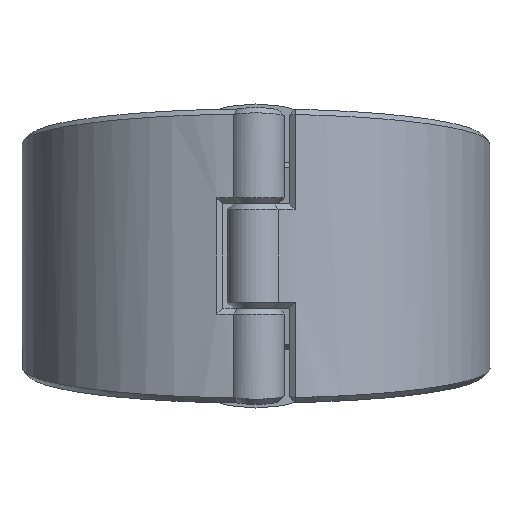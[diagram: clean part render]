
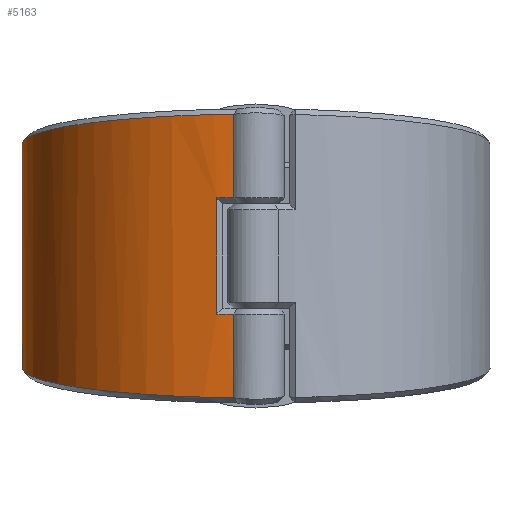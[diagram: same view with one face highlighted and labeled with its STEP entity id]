
A CAD part, front view. The second image highlights one B-rep face of the part: STEP entity #5163.
In plain terms, the highlighted cylindrical face has radius 78.5 mm (diameter 157 mm), a partial arc.
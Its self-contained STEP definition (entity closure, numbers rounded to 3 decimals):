
#171=CYLINDRICAL_SURFACE('',#5540,78.5);
#388=FACE_OUTER_BOUND('',#730,.T.);
#730=EDGE_LOOP('',(#3521,#3522,#3523,#3524,#3525,#3526,#3527,#3528,#3529,
#3530,#3531,#3532));
#1089=B_SPLINE_CURVE_WITH_KNOTS('',3,(#7728,#7729,#7730,#7731),
 .UNSPECIFIED.,.F.,.F.,(4,4),(-0.002,0.),.UNSPECIFIED.);
#1090=B_SPLINE_CURVE_WITH_KNOTS('',3,(#7733,#7734,#7735,#7736),
 .UNSPECIFIED.,.F.,.F.,(4,4),(-3.047,-3.047),
 .UNSPECIFIED.);
#1091=B_SPLINE_CURVE_WITH_KNOTS('',3,(#7738,#7739,#7740,#7741,#7742,#7743,
#7744,#7745,#7746,#7747),.UNSPECIFIED.,.F.,.F.,(4,1,1,1,1,1,1,4),(0.317,
0.631,1.035,1.44,1.845,2.249,
2.654,3.047),.UNSPECIFIED.);
#1092=B_SPLINE_CURVE_WITH_KNOTS('',3,(#7751,#7752,#7753,#7754,#7755,#7756,
#7757,#7758,#7759,#7760),.UNSPECIFIED.,.F.,.F.,(4,1,1,1,1,1,1,4),(-3.047,
-2.654,-2.249,-1.845,-1.44,
-1.035,-0.631,-0.317),.UNSPECIFIED.);
#1093=B_SPLINE_CURVE_WITH_KNOTS('',3,(#7762,#7763,#7764,#7765),
 .UNSPECIFIED.,.F.,.F.,(4,4),(3.047,3.047),
 .UNSPECIFIED.);
#1094=B_SPLINE_CURVE_WITH_KNOTS('',3,(#7767,#7768,#7769,#7770),
 .UNSPECIFIED.,.F.,.F.,(4,4),(-0.379,-0.377),
 .UNSPECIFIED.);
#1317=LINE('',#7662,#1555);
#1323=LINE('',#7726,#1561);
#1324=LINE('',#7749,#1562);
#1325=LINE('',#7771,#1563);
#1555=VECTOR('',#6155,10.);
#1561=VECTOR('',#6201,10.);
#1562=VECTOR('',#6202,10.);
#1563=VECTOR('',#6203,10.);
#1798=CIRCLE('',#5530,78.5);
#1801=CIRCLE('',#5535,78.5);
#2137=VERTEX_POINT('',#7656);
#2138=VERTEX_POINT('',#7661);
#2144=VERTEX_POINT('',#7682);
#2147=VERTEX_POINT('',#7703);
#2151=VERTEX_POINT('',#7725);
#2152=VERTEX_POINT('',#7727);
#2153=VERTEX_POINT('',#7732);
#2154=VERTEX_POINT('',#7737);
#2155=VERTEX_POINT('',#7748);
#2156=VERTEX_POINT('',#7750);
#2157=VERTEX_POINT('',#7761);
#2158=VERTEX_POINT('',#7766);
#2646=EDGE_CURVE('',#2137,#2138,#1317,.T.);
#2659=EDGE_CURVE('',#2144,#2137,#1798,.T.);
#2664=EDGE_CURVE('',#2138,#2147,#1801,.T.);
#2670=EDGE_CURVE('',#2151,#2144,#1323,.T.);
#2671=EDGE_CURVE('',#2152,#2151,#1089,.T.);
#2672=EDGE_CURVE('',#2152,#2153,#1090,.T.);
#2673=EDGE_CURVE('',#2154,#2153,#1091,.T.);
#2674=EDGE_CURVE('',#2155,#2154,#1324,.T.);
#2675=EDGE_CURVE('',#2156,#2155,#1092,.T.);
#2676=EDGE_CURVE('',#2156,#2157,#1093,.T.);
#2677=EDGE_CURVE('',#2158,#2157,#1094,.T.);
#2678=EDGE_CURVE('',#2147,#2158,#1325,.T.);
#3521=ORIENTED_EDGE('',*,*,#2664,.F.);
#3522=ORIENTED_EDGE('',*,*,#2646,.F.);
#3523=ORIENTED_EDGE('',*,*,#2659,.F.);
#3524=ORIENTED_EDGE('',*,*,#2670,.F.);
#3525=ORIENTED_EDGE('',*,*,#2671,.F.);
#3526=ORIENTED_EDGE('',*,*,#2672,.T.);
#3527=ORIENTED_EDGE('',*,*,#2673,.F.);
#3528=ORIENTED_EDGE('',*,*,#2674,.F.);
#3529=ORIENTED_EDGE('',*,*,#2675,.F.);
#3530=ORIENTED_EDGE('',*,*,#2676,.T.);
#3531=ORIENTED_EDGE('',*,*,#2677,.F.);
#3532=ORIENTED_EDGE('',*,*,#2678,.F.);
#5163=ADVANCED_FACE('',(#388),#171,.T.);
#5530=AXIS2_PLACEMENT_3D('',#7698,#6177,#6178);
#5535=AXIS2_PLACEMENT_3D('',#7712,#6187,#6188);
#5540=AXIS2_PLACEMENT_3D('',#7724,#6199,#6200);
#6155=DIRECTION('',(0.,0.,-1.));
#6177=DIRECTION('center_axis',(0.,0.,-1.));
#6178=DIRECTION('ref_axis',(0.312,-0.95,0.));
#6187=DIRECTION('center_axis',(0.,0.,1.));
#6188=DIRECTION('ref_axis',(0.312,-0.95,0.));
#6199=DIRECTION('center_axis',(0.,0.,1.));
#6200=DIRECTION('ref_axis',(-0.312,0.95,0.));
#6201=DIRECTION('',(0.,0.,-1.));
#6202=DIRECTION('',(0.,0.,1.));
#6203=DIRECTION('',(0.,0.,-1.));
#7656=CARTESIAN_POINT('',(-13.176,-77.386,19.5));
#7661=CARTESIAN_POINT('',(-13.176,-77.386,-19.5));
#7662=CARTESIAN_POINT('',(-13.176,-77.386,0.));
#7682=CARTESIAN_POINT('',(-7.389,-78.151,19.5));
#7698=CARTESIAN_POINT('Origin',(0.,0.,19.5));
#7703=CARTESIAN_POINT('',(-7.389,-78.151,-19.5));
#7712=CARTESIAN_POINT('Origin',(0.,0.,-19.5));
#7724=CARTESIAN_POINT('Origin',(0.,0.,0.));
#7725=CARTESIAN_POINT('',(-7.389,-78.151,47.543));
#7726=CARTESIAN_POINT('',(-7.389,-78.151,0.));
#7727=CARTESIAN_POINT('',(-7.376,-78.153,47.553));
#7728=CARTESIAN_POINT('Ctrl Pts',(-7.375,-78.152,47.553));
#7729=CARTESIAN_POINT('Ctrl Pts',(-7.38,-78.152,47.55));
#7730=CARTESIAN_POINT('Ctrl Pts',(-7.384,-78.151,47.547));
#7731=CARTESIAN_POINT('Ctrl Pts',(-7.389,-78.151,47.543));
#7732=CARTESIAN_POINT('',(-7.389,-78.151,47.553));
#7733=CARTESIAN_POINT('Ctrl Pts',(-7.376,-78.153,47.553));
#7734=CARTESIAN_POINT('Ctrl Pts',(-7.38,-78.152,47.553));
#7735=CARTESIAN_POINT('Ctrl Pts',(-7.385,-78.152,47.553));
#7736=CARTESIAN_POINT('Ctrl Pts',(-7.389,-78.151,47.553));
#7737=CARTESIAN_POINT('',(-24.512,74.575,27.998));
#7738=CARTESIAN_POINT('Ctrl Pts',(-24.511,74.572,27.999));
#7739=CARTESIAN_POINT('Ctrl Pts',(-32.338,71.995,28.328));
#7740=CARTESIAN_POINT('Ctrl Pts',(-49.327,63.276,29.441));
#7741=CARTESIAN_POINT('Ctrl Pts',(-69.509,40.976,32.289));
#7742=CARTESIAN_POINT('Ctrl Pts',(-80.019,10.258,36.217));
#7743=CARTESIAN_POINT('Ctrl Pts',(-77.597,-22.073,40.358));
#7744=CARTESIAN_POINT('Ctrl Pts',(-62.659,-50.803,44.042));
#7745=CARTESIAN_POINT('Ctrl Pts',(-37.907,-71.126,46.651));
#7746=CARTESIAN_POINT('Ctrl Pts',(-17.589,-77.186,47.429));
#7747=CARTESIAN_POINT('Ctrl Pts',(-7.389,-78.151,47.553));
#7748=CARTESIAN_POINT('',(-24.512,74.575,-27.998));
#7749=CARTESIAN_POINT('',(-24.512,74.575,0.));
#7750=CARTESIAN_POINT('',(-7.389,-78.151,-47.553));
#7751=CARTESIAN_POINT('Ctrl Pts',(-7.389,-78.151,-47.553));
#7752=CARTESIAN_POINT('Ctrl Pts',(-17.589,-77.186,-47.429));
#7753=CARTESIAN_POINT('Ctrl Pts',(-37.907,-71.126,-46.651));
#7754=CARTESIAN_POINT('Ctrl Pts',(-62.659,-50.803,-44.042));
#7755=CARTESIAN_POINT('Ctrl Pts',(-77.597,-22.073,-40.358));
#7756=CARTESIAN_POINT('Ctrl Pts',(-80.019,10.258,-36.217));
#7757=CARTESIAN_POINT('Ctrl Pts',(-69.509,40.976,-32.289));
#7758=CARTESIAN_POINT('Ctrl Pts',(-49.327,63.276,-29.441));
#7759=CARTESIAN_POINT('Ctrl Pts',(-32.338,71.995,-28.328));
#7760=CARTESIAN_POINT('Ctrl Pts',(-24.511,74.572,-27.999));
#7761=CARTESIAN_POINT('',(-7.376,-78.153,-47.553));
#7762=CARTESIAN_POINT('Ctrl Pts',(-7.389,-78.151,-47.553));
#7763=CARTESIAN_POINT('Ctrl Pts',(-7.385,-78.152,-47.553));
#7764=CARTESIAN_POINT('Ctrl Pts',(-7.38,-78.152,-47.553));
#7765=CARTESIAN_POINT('Ctrl Pts',(-7.376,-78.153,-47.553));
#7766=CARTESIAN_POINT('',(-7.389,-78.151,-47.543));
#7767=CARTESIAN_POINT('Ctrl Pts',(-7.389,-78.151,-47.543));
#7768=CARTESIAN_POINT('Ctrl Pts',(-7.384,-78.151,-47.547));
#7769=CARTESIAN_POINT('Ctrl Pts',(-7.38,-78.152,-47.55));
#7770=CARTESIAN_POINT('Ctrl Pts',(-7.375,-78.152,-47.553));
#7771=CARTESIAN_POINT('',(-7.389,-78.151,0.));
